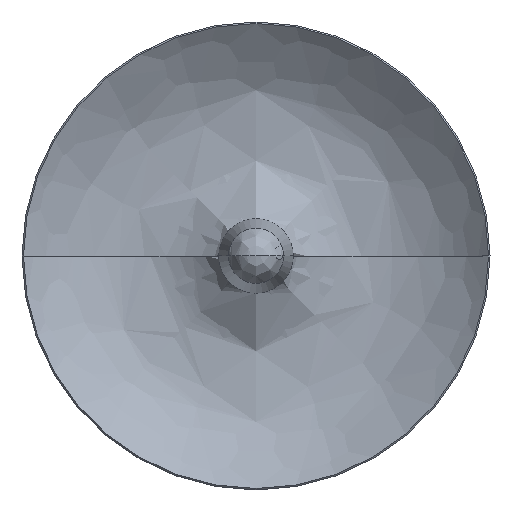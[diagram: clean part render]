
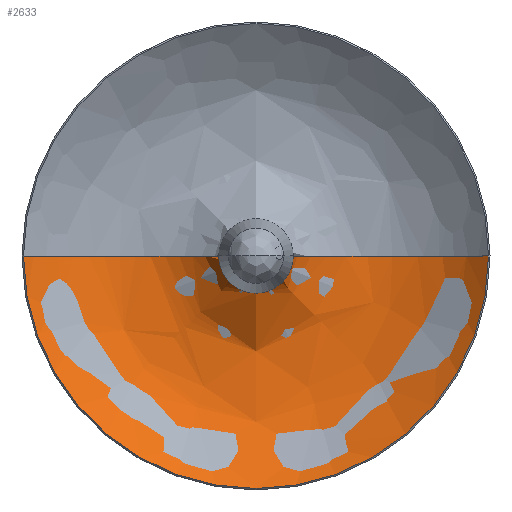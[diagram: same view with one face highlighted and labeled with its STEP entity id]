
A CAD part, top view. The second image highlights one B-rep face of the part: STEP entity #2633.
In plain terms, the highlighted free-form (B-spline) face has degree [2, 3] with [9, 6] control points.
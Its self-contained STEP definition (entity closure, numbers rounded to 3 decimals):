
#141=(
BOUNDED_SURFACE()
B_SPLINE_SURFACE(2,3,((#22513,#22514,#22515,#22516,#22517,#22518),(#22519,
#22520,#22521,#22522,#22523,#22524),(#22525,#22526,#22527,#22528,#22529,
#22530),(#22531,#22532,#22533,#22534,#22535,#22536),(#22537,#22538,#22539,
#22540,#22541,#22542),(#22543,#22544,#22545,#22546,#22547,#22548),(#22549,
#22550,#22551,#22552,#22553,#22554),(#22555,#22556,#22557,#22558,#22559,
#22560),(#22561,#22562,#22563,#22564,#22565,#22566)),.UNSPECIFIED.,.T.,
 .F.,.F.)
B_SPLINE_SURFACE_WITH_KNOTS((3,2,2,2,3),(4,1,1,4),(0.,435.165,
870.33,1305.494,1740.659),(0.,5.591,
340.673,344.477),.UNSPECIFIED.)
GEOMETRIC_REPRESENTATION_ITEM()
RATIONAL_B_SPLINE_SURFACE(((1.,1.,1.,1.,1.,1.),(0.707,0.707,
0.707,0.707,0.707,0.707),
(1.,1.,1.,1.,1.,1.),(0.707,0.707,0.707,
0.707,0.707,0.707),(1.,1.,1.,1.,1.,
1.),(0.707,0.707,0.707,0.707,
0.707,0.707),(1.,1.,1.,1.,1.,1.),(0.707,
0.707,0.707,0.707,0.707,
0.707),(1.,1.,1.,1.,1.,1.)))
REPRESENTATION_ITEM('')
SURFACE()
);
#555=TRIMMED_CURVE($,#1233,(#22584),(#22585),.T.,.CARTESIAN.);
#556=TRIMMED_CURVE($,#1234,(#22597),(#22598),.T.,.CARTESIAN.);
#1233=CIRCLE('',#13196,274.654);
#1234=CIRCLE('',#13197,8.194);
#2633=ADVANCED_FACE('',(#3013),#141,.T.);
#3013=FACE_OUTER_BOUND('',#3397,.T.);
#3397=EDGE_LOOP('',(#4298,#4299,#4300,#4301,#4302,#4303));
#4298=ORIENTED_EDGE('',*,*,#6251,.T.);
#4299=ORIENTED_EDGE('',*,*,#6256,.T.);
#4300=ORIENTED_EDGE('',*,*,#6255,.T.);
#4301=ORIENTED_EDGE('',*,*,#6254,.T.);
#4302=ORIENTED_EDGE('',*,*,#6253,.T.);
#4303=ORIENTED_EDGE('',*,*,#6252,.T.);
#6251=EDGE_CURVE('',#9371,#9372,#8008,.T.);
#6252=EDGE_CURVE('',#9373,#9371,#8009,.T.);
#6253=EDGE_CURVE('',#9374,#9373,#555,.T.);
#6254=EDGE_CURVE('',#9375,#9374,#8010,.T.);
#6255=EDGE_CURVE('',#9376,#9375,#8011,.T.);
#6256=EDGE_CURVE('',#9372,#9376,#556,.T.);
#8008=B_SPLINE_CURVE_WITH_KNOTS('',3,(#22573,#22574,#22575,#22576),
 .UNSPECIFIED.,.F.,.F.,(4,4),(-413.301,0.),.UNSPECIFIED.);
#8009=B_SPLINE_CURVE_WITH_KNOTS('',3,(#22577,#22578,#22579,#22580,#22581,
#22582),.UNSPECIFIED.,.F.,.F.,(4,1,1,4),(-1.008,-0.672,
-0.336,0.),.UNSPECIFIED.);
#8010=B_SPLINE_CURVE_WITH_KNOTS('',3,(#22586,#22587,#22588,#22589,#22590,
#22591),.UNSPECIFIED.,.F.,.F.,(4,1,1,4),(-0.989,-0.659,
-0.33,0.),.UNSPECIFIED.);
#8011=B_SPLINE_CURVE_WITH_KNOTS('',3,(#22592,#22593,#22594,#22595),
 .UNSPECIFIED.,.F.,.F.,(4,4),(-413.327,0.),.UNSPECIFIED.);
#9371=VERTEX_POINT('',#22567);
#9372=VERTEX_POINT('',#22568);
#9373=VERTEX_POINT('',#22569);
#9374=VERTEX_POINT('',#22570);
#9375=VERTEX_POINT('',#22571);
#9376=VERTEX_POINT('',#22572);
#13196=AXIS2_PLACEMENT_3D($,#22583,#14310,#14311);
#13197=AXIS2_PLACEMENT_3D($,#22596,#14312,#14313);
#14310=DIRECTION('',(0.,0.,-1.));
#14311=DIRECTION('',(-1.,0.,0.));
#14312=DIRECTION('',(0.,0.,1.));
#14313=DIRECTION('',(1.,0.,0.));
#22513=CARTESIAN_POINT('',(7359.799,-7.876,363.745));
#22514=CARTESIAN_POINT('',(7359.799,-8.042,365.775));
#22515=CARTESIAN_POINT('',(7359.799,-20.65,487.832));
#22516=CARTESIAN_POINT('',(7359.794,-184.206,508.556));
#22517=CARTESIAN_POINT('',(7359.791,-276.013,415.631));
#22518=CARTESIAN_POINT('',(7359.791,-277.035,414.573));
#22519=CARTESIAN_POINT('',(7367.676,-7.877,363.745));
#22520=CARTESIAN_POINT('',(7367.841,-8.042,365.775));
#22521=CARTESIAN_POINT('',(7380.448,-20.65,487.832));
#22522=CARTESIAN_POINT('',(7544.,-184.212,508.556));
#22523=CARTESIAN_POINT('',(7635.804,-276.021,415.631));
#22524=CARTESIAN_POINT('',(7636.826,-277.043,414.573));
#22525=CARTESIAN_POINT('',(7367.676,0.,363.745));
#22526=CARTESIAN_POINT('',(7367.842,0.,365.775));
#22527=CARTESIAN_POINT('',(7380.449,-0.001,487.832));
#22528=CARTESIAN_POINT('',(7544.006,-0.005,508.556));
#22529=CARTESIAN_POINT('',(7635.812,-0.008,415.631));
#22530=CARTESIAN_POINT('',(7636.834,-0.008,414.573));
#22531=CARTESIAN_POINT('',(7367.676,7.876,363.745));
#22532=CARTESIAN_POINT('',(7367.842,8.042,365.775));
#22533=CARTESIAN_POINT('',(7380.45,20.649,487.832));
#22534=CARTESIAN_POINT('',(7544.011,184.201,508.556));
#22535=CARTESIAN_POINT('',(7635.82,276.005,415.631));
#22536=CARTESIAN_POINT('',(7636.842,277.026,414.573));
#22537=CARTESIAN_POINT('',(7359.8,7.876,363.745));
#22538=CARTESIAN_POINT('',(7359.8,8.042,365.775));
#22539=CARTESIAN_POINT('',(7359.8,20.65,487.832));
#22540=CARTESIAN_POINT('',(7359.805,184.206,508.556));
#22541=CARTESIAN_POINT('',(7359.808,276.013,415.631));
#22542=CARTESIAN_POINT('',(7359.808,277.035,414.573));
#22543=CARTESIAN_POINT('',(7351.923,7.877,363.745));
#22544=CARTESIAN_POINT('',(7351.757,8.042,365.775));
#22545=CARTESIAN_POINT('',(7339.15,20.65,487.832));
#22546=CARTESIAN_POINT('',(7175.598,184.212,508.556));
#22547=CARTESIAN_POINT('',(7083.795,276.021,415.631));
#22548=CARTESIAN_POINT('',(7082.773,277.043,414.573));
#22549=CARTESIAN_POINT('',(7351.923,0.,363.745));
#22550=CARTESIAN_POINT('',(7351.757,0.,365.775));
#22551=CARTESIAN_POINT('',(7339.15,0.001,487.832));
#22552=CARTESIAN_POINT('',(7175.593,0.005,508.556));
#22553=CARTESIAN_POINT('',(7083.787,0.008,415.631));
#22554=CARTESIAN_POINT('',(7082.765,0.008,414.573));
#22555=CARTESIAN_POINT('',(7351.923,-7.876,363.745));
#22556=CARTESIAN_POINT('',(7351.757,-8.042,365.775));
#22557=CARTESIAN_POINT('',(7339.149,-20.649,487.832));
#22558=CARTESIAN_POINT('',(7175.588,-184.201,508.556));
#22559=CARTESIAN_POINT('',(7083.778,-276.005,415.631));
#22560=CARTESIAN_POINT('',(7082.757,-277.026,414.573));
#22561=CARTESIAN_POINT('',(7359.799,-7.876,363.745));
#22562=CARTESIAN_POINT('',(7359.799,-8.042,365.775));
#22563=CARTESIAN_POINT('',(7359.799,-20.65,487.832));
#22564=CARTESIAN_POINT('',(7359.794,-184.206,508.556));
#22565=CARTESIAN_POINT('',(7359.791,-276.013,415.631));
#22566=CARTESIAN_POINT('',(7359.791,-277.035,414.573));
#22567=CARTESIAN_POINT('',(7633.742,-0.008,417.703));
#22568=CARTESIAN_POINT('',(7367.994,0.,367.138));
#22569=CARTESIAN_POINT('',(7634.457,0.,416.992));
#22570=CARTESIAN_POINT('',(7085.148,0.,416.998));
#22571=CARTESIAN_POINT('',(7085.849,0.008,417.695));
#22572=CARTESIAN_POINT('',(7351.605,0.,367.138));
#22573=CARTESIAN_POINT('',(7633.742,-0.008,417.703));
#22574=CARTESIAN_POINT('',(7541.53,-0.005,508.991));
#22575=CARTESIAN_POINT('',(7380.771,-0.001,487.868));
#22576=CARTESIAN_POINT('',(7367.994,0.,367.138));
#22577=CARTESIAN_POINT('',(7634.457,0.,416.992));
#22578=CARTESIAN_POINT('',(7634.378,-0.002,417.071));
#22579=CARTESIAN_POINT('',(7634.219,-0.005,417.229));
#22580=CARTESIAN_POINT('',(7633.981,-0.007,417.466));
#22581=CARTESIAN_POINT('',(7633.822,-0.008,417.624));
#22582=CARTESIAN_POINT('',(7633.742,-0.008,417.703));
#22583=CARTESIAN_POINT('',(7359.802,0.,416.995));
#22584=CARTESIAN_POINT('',(7085.148,0.,416.998));
#22585=CARTESIAN_POINT('',(7634.457,0.,416.992));
#22586=CARTESIAN_POINT('',(7085.849,0.008,417.695));
#22587=CARTESIAN_POINT('',(7085.769,0.008,417.616));
#22588=CARTESIAN_POINT('',(7085.621,0.007,417.469));
#22589=CARTESIAN_POINT('',(7085.385,0.005,417.234));
#22590=CARTESIAN_POINT('',(7085.227,0.002,417.077));
#22591=CARTESIAN_POINT('',(7085.148,0.,416.998));
#22592=CARTESIAN_POINT('',(7351.605,0.,367.138));
#22593=CARTESIAN_POINT('',(7338.827,0.001,487.874));
#22594=CARTESIAN_POINT('',(7178.059,0.005,509.001));
#22595=CARTESIAN_POINT('',(7085.849,0.008,417.695));
#22596=CARTESIAN_POINT('',(7359.799,0.,367.138));
#22597=CARTESIAN_POINT('',(7367.994,0.,367.138));
#22598=CARTESIAN_POINT('',(7351.605,0.,367.138));
